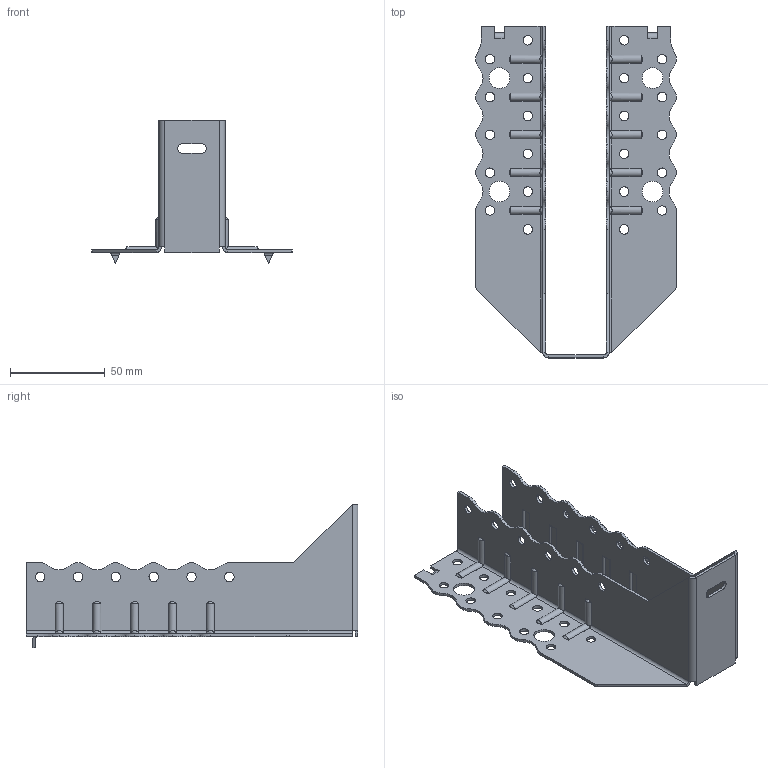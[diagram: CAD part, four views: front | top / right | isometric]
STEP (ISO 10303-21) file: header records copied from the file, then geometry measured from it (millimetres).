
FILE_DESCRIPTION (( 'STEP AP203' ), '1' );
FILE_NAME ('30654TOP.STEP', '2021-04-06T16:04:53', ( '' ), ( '' ), 'SwSTEP 2.0', 'SolidWorks 2013', '' );
FILE_SCHEMA (( 'CONFIG_CONTROL_DESIGN' ));
Length unit declared in the file: millimetre
Products named in the file (1): 30654TOP
Bounding box: 106 x 175.5 x 76 mm (x, y, z)
Volume: 38810 mm3; surface area: 55181 mm2
Topology: 1 solids, 1 shells, 428 faces, 1154 edges, 728 vertices
Faces by surface type: cylinder 269, plane 119, torus 20, bspline 20
Entity records: 15880 total; most frequent: CARTESIAN_POINT 5007, ORIENTED_EDGE 2308, DIRECTION 2228, EDGE_CURVE 1154, AXIS2_PLACEMENT_3D 813, VERTEX_POINT 728, VECTOR 602, LINE 602
